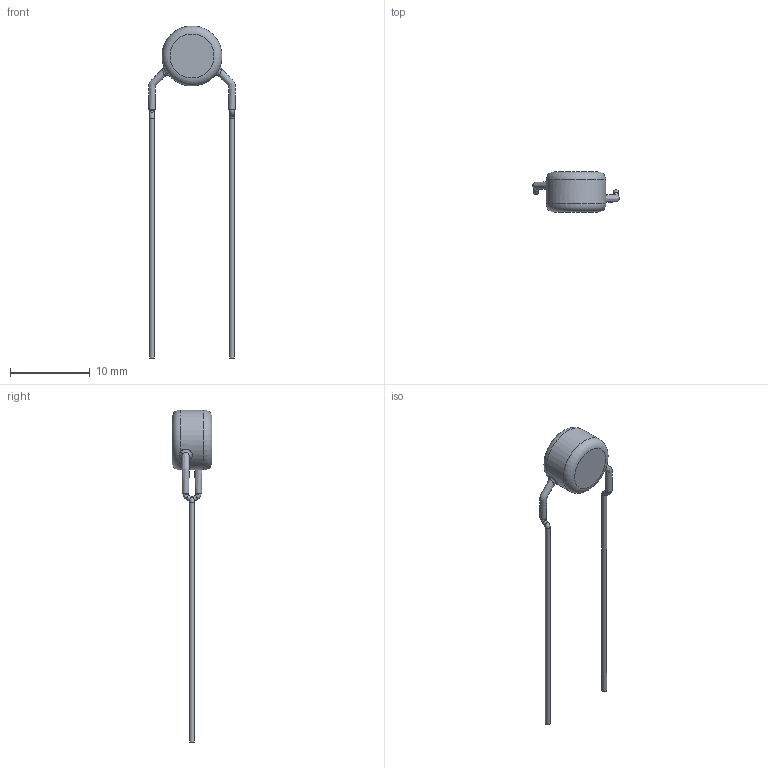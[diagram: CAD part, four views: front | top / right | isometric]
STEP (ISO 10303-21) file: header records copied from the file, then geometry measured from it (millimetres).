
FILE_DESCRIPTION(/* description */ (''),/* implementation_level */ '2;1');
FILE_NAME(/* name */ 'I:\Marketing\M6t1\3D-Models\Zchng-Werk-3\Upload for homepage\BCC\AY2\Inline Dia 0,6 LS 10\AY2471K29Y5SS63V0.stp',/* time_stamp */ '2020-11-05T15:55:02+01:00',/* author */ ('truediger'),/* organization */ (''),/* preprocessor_version */ 'ST-DEVELOPER v18',/* originating_system */ 'Autodesk Inventor 2020',/* authorisation */ '');
FILE_SCHEMA (('AUTOMOTIVE_DESIGN { 1 0 10303 214 3 1 1 }'));
Length unit declared in the file: millimetre
Products named in the file (1): Bauteil7
Bounding box: 10.85 x 5 x 41.5 mm (x, y, z)
Volume: 236 mm3; surface area: 332.8 mm2
Topology: 1 solids, 1 shells, 29 faces, 73 edges, 48 vertices
Faces by surface type: cylinder 9, bspline 8, torus 6, plane 6
Full cylindrical faces by diameter (mm): 0.6 x4, 7.5 x1
Entity records: 2130 total; most frequent: CARTESIAN_POINT 1389, ORIENTED_EDGE 146, DIRECTION 141, EDGE_CURVE 73, AXIS2_PLACEMENT_3D 68, VERTEX_POINT 48, CIRCLE 44, EDGE_LOOP 31
